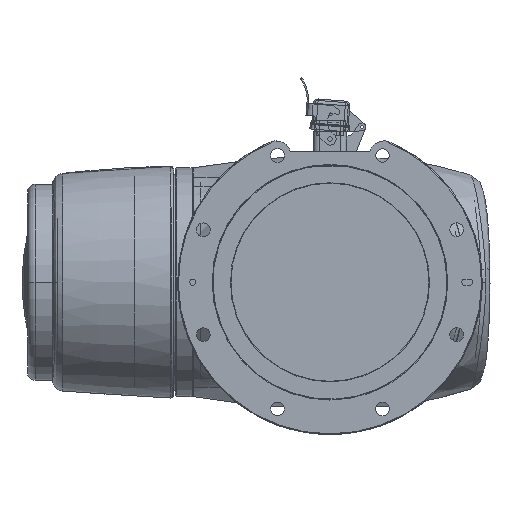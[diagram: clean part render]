
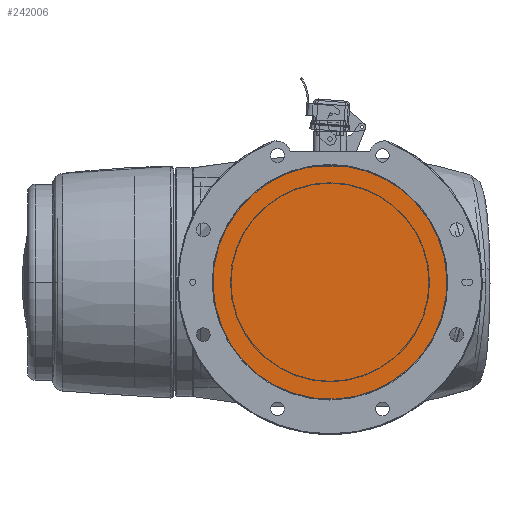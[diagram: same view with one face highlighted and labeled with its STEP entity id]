
A CAD part, front view. The second image highlights one B-rep face of the part: STEP entity #242006.
In plain terms, the highlighted planar face has unit normal (0, -1, 0).
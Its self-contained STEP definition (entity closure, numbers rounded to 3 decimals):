
#9162 = DIRECTION ( 'NONE',  ( 0.383, 0., -0.924 ) ) ;
#10051 = EDGE_LOOP ( 'NONE', ( #206431, #172382 ) ) ;
#48117 = DIRECTION ( 'NONE',  ( 0.383, 0., -0.924 ) ) ;
#52639 = VERTEX_POINT ( 'NONE', #193243 ) ;
#67466 = DIRECTION ( 'NONE',  ( 0., 1., 0. ) ) ;
#86365 = CIRCLE ( 'NONE', #236691, 76.75 ) ;
#87661 = FACE_OUTER_BOUND ( 'NONE', #10051, .T. ) ;
#95535 = EDGE_CURVE ( 'NONE', #52639, #147951, #215681, .T. ) ;
#99685 = AXIS2_PLACEMENT_3D ( 'NONE', #150310, #232343, #48117 ) ;
#111388 = CARTESIAN_POINT ( 'NONE',  ( 0., 1., 0. ) ) ;
#136350 = CARTESIAN_POINT ( 'NONE',  ( 29.371, 1., -70.908 ) ) ;
#147951 = VERTEX_POINT ( 'NONE', #136350 ) ;
#149478 = DIRECTION ( 'NONE',  ( 0.383, 0., -0.924 ) ) ;
#150310 = CARTESIAN_POINT ( 'NONE',  ( 0., 1., 0. ) ) ;
#169681 = PLANE ( 'NONE',  #195068 ) ;
#172382 = ORIENTED_EDGE ( 'NONE', *, *, #255622, .F. ) ;
#193243 = CARTESIAN_POINT ( 'NONE',  ( -29.371, 1., 70.908 ) ) ;
#193391 = DIRECTION ( 'NONE',  ( 0., 1., 0. ) ) ;
#195068 = AXIS2_PLACEMENT_3D ( 'NONE', #251696, #67466, #149478 ) ;
#206431 = ORIENTED_EDGE ( 'NONE', *, *, #95535, .F. ) ;
#215681 = CIRCLE ( 'NONE', #99685, 76.75 ) ;
#232343 = DIRECTION ( 'NONE',  ( 0., 1., 0. ) ) ;
#236691 = AXIS2_PLACEMENT_3D ( 'NONE', #111388, #193391, #9162 ) ;
#242006 = ADVANCED_FACE ( 'NONE', ( #87661 ), #169681, .F. ) ;
#251696 = CARTESIAN_POINT ( 'NONE',  ( 0., 1., 0. ) ) ;
#255622 = EDGE_CURVE ( 'NONE', #147951, #52639, #86365, .T. ) ;
